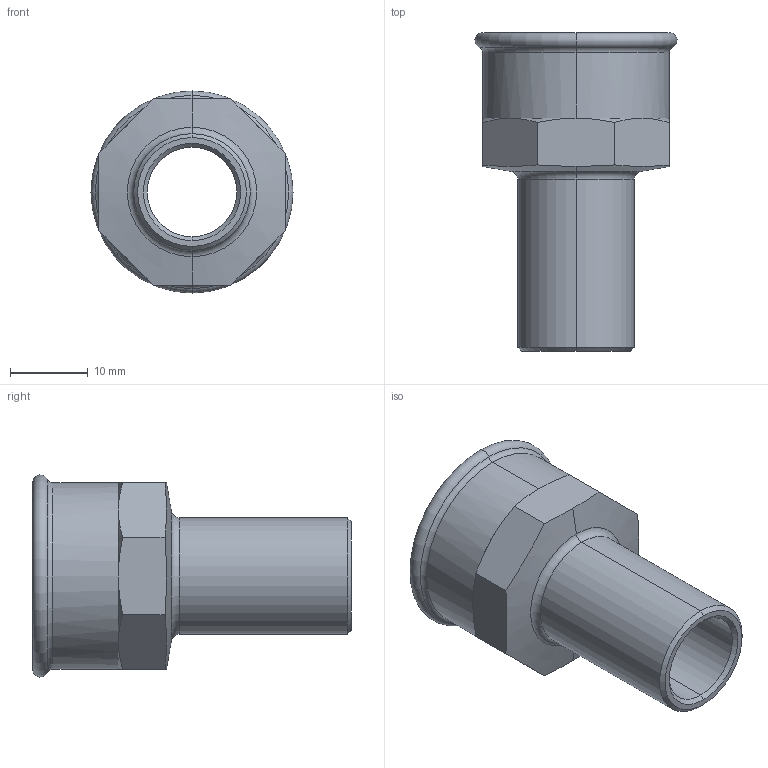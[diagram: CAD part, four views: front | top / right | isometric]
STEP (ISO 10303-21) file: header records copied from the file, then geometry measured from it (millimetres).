
FILE_DESCRIPTION (( 'STEP AP203' ), '1' );
FILE_NAME ('SP4281G Ø15 1-2.STEP', '2017-04-26T09:12:50', ( '' ), ( '' ), 'SwSTEP 2.0', 'SolidWorks 2016', '' );
FILE_SCHEMA (( 'CONFIG_CONTROL_DESIGN' ));
Length unit declared in the file: millimetre
Products named in the file (1): SP4281G Ø15 1-2
Bounding box: 26 x 41 x 26 mm (x, y, z)
Volume: 5508.5 mm3; surface area: 4960.2 mm2
Topology: 1 solids, 1 shells, 41 faces, 90 edges, 52 vertices
Faces by surface type: cone 16, plane 11, cylinder 8, torus 6
Entity records: 1259 total; most frequent: CARTESIAN_POINT 302, DIRECTION 188, ORIENTED_EDGE 180, EDGE_CURVE 90, AXIS2_PLACEMENT_3D 82, VERTEX_POINT 52, EDGE_LOOP 44, FACE_OUTER_BOUND 41
